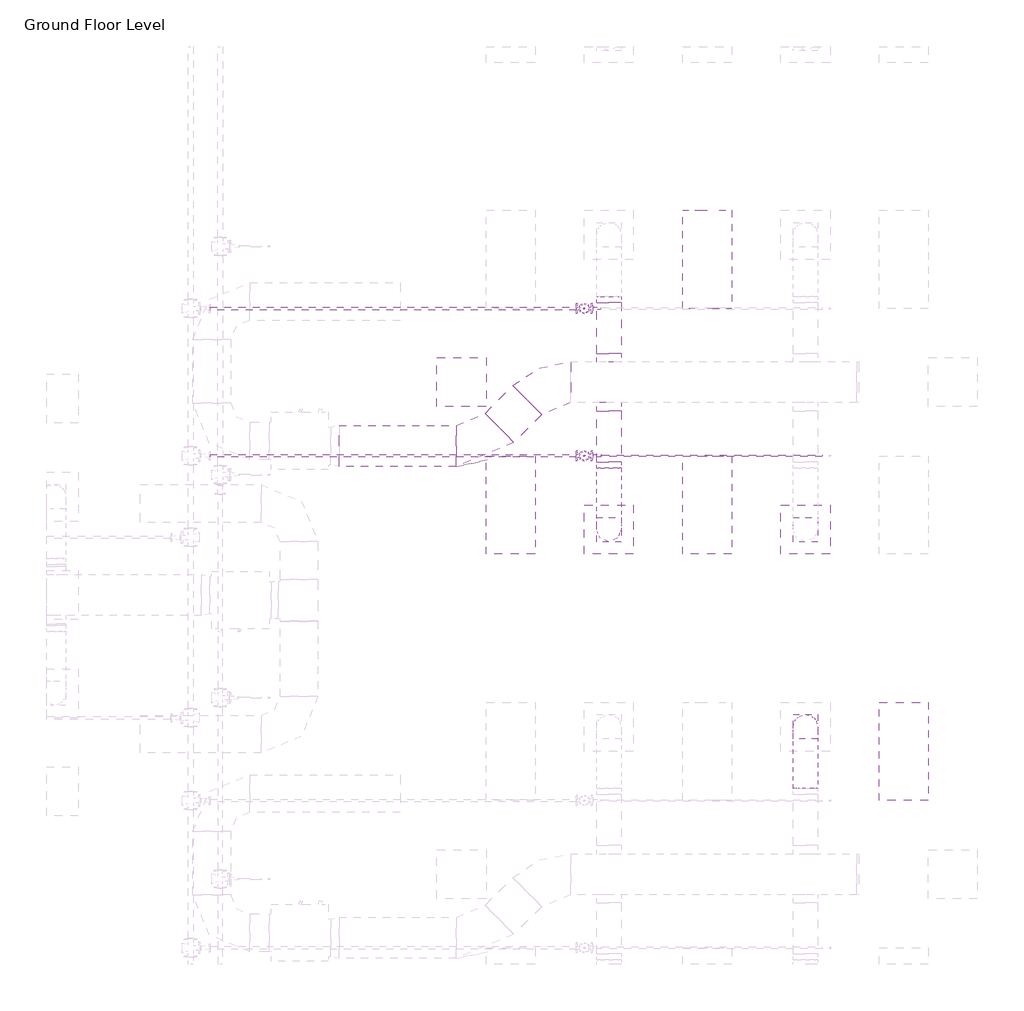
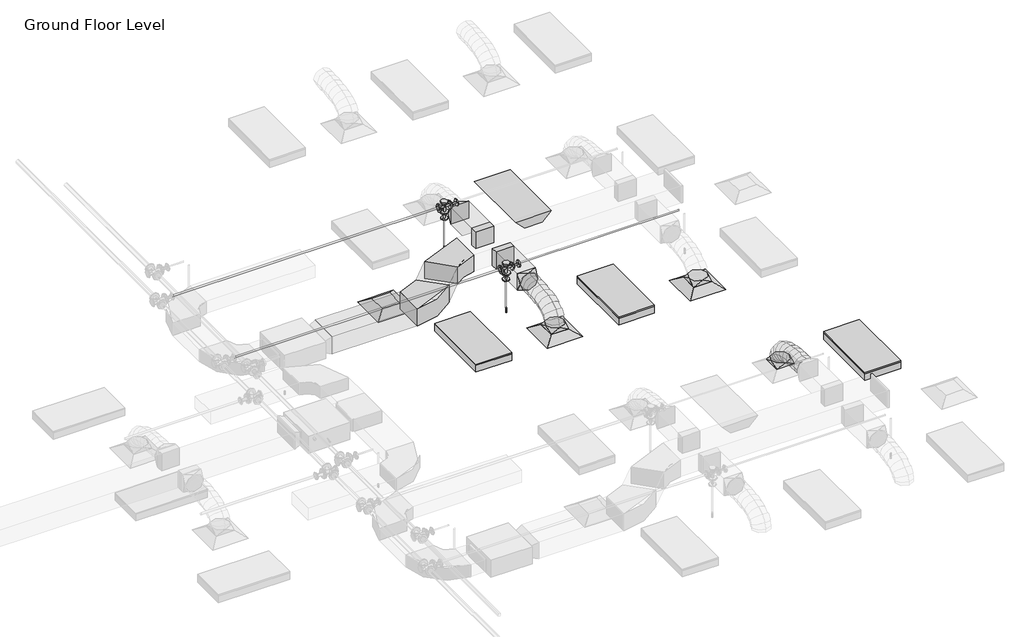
# One storey, part 60 of 68: 9 duct fittings, 6 duct segments, 6 pipe fittings, 5 pipe segments, 4 light fixtures, 3 air terminals, 2 fire suppression terminals.
"""IFC4 building model written with IfcOpenShell, lengths in millimetres."""

from ifc_helpers import new_model, si_unit, point, frame, frame_2d, origin, place, context, project, spatial, polyline, circle_curve, ellipse_curve, trimmed, segment, composite_curve, outline, extrude, transform, mapped, element, save
from ifc_brep_helpers import plane_surface, cylinder_surface, advanced_brep
from components import m_return_diffuser_600_x_600_face_300_x_300_connection_ff221211, m_rectangular_elbow_radius_1_5_w_acc56c25, m_rectangular_takeoff_standard_cb0ccb98, m_rectangular_takeoff_standard_2be5eba1, m_rectangular_to_round_transition_angle_45_degree_641efff0, m_sprinkler_dry_pendent_hosted_15_mm_dry_pendent_9bda8e11, m_emergency_recessed_lighting_fixture_600x1200_277_5b10b25d, m_troffer_light_parabolic_rectangular1_0600x1200mm_4_lamp_86473d4a, m_reducer_flanged_cs_class_150_standard_ccf252ad, m_tee_round_base_flanged_cs_class_150_standard_7e5987a1

model = new_model("IFC4")

# Units and contexts
model_context = context("Model", 3, world=origin())
ifc_project = project(units=[si_unit("LENGTHUNIT", "METRE", prefix="MILLI")], contexts=[model_context])

# Site, building, storey
site = spatial("IfcSite", under=ifc_project)
building = spatial("IfcBuilding", under=site)
storey = spatial("IfcBuildingStorey", under=building, Name="Ground Floor Level", Elevation=900.0)

# Air terminals
placement = place(None, origin())
m_return_diffuser_600_x_600_face_300_x_300_connection_shape = m_return_diffuser_600_x_600_face_300_x_300_connection_ff221211(model_context)
element("IfcAirTerminal", 1, ObjectType="M_Return Diffuser : 600 x 600 Face 300 x 300 Connection", at=placement, inside=storey, context=model_context, shape_type="MappedRepresentation", body=[
    mapped(m_return_diffuser_600_x_600_face_300_x_300_connection_shape, transform((8942.7672395, 6735.2153534, 3650.0), x_axis=(1.0, 0.0, 0.0), y_axis=(0.0, 1.0, 0.0), z_axis=(0.0, 0.0, 1.0))),
])
element("IfcAirTerminal", 2, ObjectType="M_Supply Diffuser : 600 x 600 Face 300 x 300 Connection", at=placement, inside=storey, context=model_context, shape_type="MappedRepresentation", body=[
    mapped(m_return_diffuser_600_x_600_face_300_x_300_connection_shape, transform((10742.7672395, 4935.2153534, 3650.0), x_axis=(1.0, 0.0, 0.0), y_axis=(0.0, 1.0, 0.0), z_axis=(0.0, 0.0, 1.0))),
])
element("IfcAirTerminal", 3, ObjectType="M_Supply Diffuser : 600 x 600 Face 300 x 300 Connection", at=placement, inside=storey, context=model_context, shape_type="MappedRepresentation", body=[
    mapped(m_return_diffuser_600_x_600_face_300_x_300_connection_shape, transform((13142.7672395, 4935.2153534, 3650.0), x_axis=(1.0, 0.0, 0.0), y_axis=(0.0, 1.0, 0.0), z_axis=(0.0, 0.0, 1.0))),
])

# Duct fittings
m_rectangular_elbow_radius_1_5_w_shape = m_rectangular_elbow_radius_1_5_w_acc56c25(model_context)
element("IfcDuctFitting", 4, ObjectType="M_Rectangular Elbow - Radius : 1.5 W", at=placement, inside=storey, context=model_context, shape_type="MappedRepresentation", body=[
    mapped(m_rectangular_elbow_radius_1_5_w_shape, transform((9187.6927358, 5956.1779527, 4100.0047224), x_axis=(0.9999999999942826, 0.0, -3.3815582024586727e-06), y_axis=(-9.063610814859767e-12, 0.9999999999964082, -2.680306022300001e-06), z_axis=(3.3815582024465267e-06, 2.6803060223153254e-06, 0.9999999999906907))),
])
element("IfcDuctFitting", 5, ObjectType="M_Rectangular Elbow - Radius : 1.5 W", at=placement, inside=storey, context=model_context, shape_type="MappedRepresentation", body=[
    mapped(m_rectangular_elbow_radius_1_5_w_shape, transform((9966.7301365, 6735.2153534, 4100.0), x_axis=(-1.0, 0.0, 0.0), y_axis=(0.0, -0.9999999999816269, 6.061864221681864e-06), z_axis=(0.0, 6.061864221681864e-06, 0.9999999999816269))),
])
m_rectangular_takeoff_standard_shape = m_rectangular_takeoff_standard_cb0ccb98(model_context)
element("IfcDuctFitting", 6, ObjectType="M_Rectangular Takeoff : Standard", at=placement, inside=storey, context=model_context, shape_type="MappedRepresentation", body=[
    mapped(m_rectangular_takeoff_standard_shape, transform((10742.7672395, 6985.2153534, 4100.0), x_axis=(0.0, 1.0, 0.0), y_axis=(1.0, 0.0, 0.0), z_axis=(0.0, 0.0, -1.0))),
])
m_rectangular_takeoff_standard_2_shape = m_rectangular_takeoff_standard_2be5eba1(model_context)
element("IfcDuctFitting", 7, ObjectType="M_Rectangular Takeoff : Standard", at=placement, inside=storey, context=model_context, shape_type="MappedRepresentation", body=[
    mapped(m_rectangular_takeoff_standard_2_shape, transform((10742.7672395, 6485.2153534, 4100.0), x_axis=(0.0, -1.0, 0.0), y_axis=(-1.0, 0.0, 0.0), z_axis=(0.0, 0.0, -1.0))),
])
m_rectangular_to_round_transition_angle_45_degree_shape = m_rectangular_to_round_transition_angle_45_degree_641efff0(model_context)
element("IfcDuctFitting", 8, ObjectType="M_Rectangular to Round Transition - Angle : 45 Degree", at=placement, inside=storey, context=model_context, shape_type="MappedRepresentation", body=[
    mapped(m_rectangular_to_round_transition_angle_45_degree_shape, transform((13142.7672395, 2525.2153534, 3751.6), x_axis=(0.0, 0.0, 1.0), y_axis=(-1.0, 0.0, 0.0), z_axis=(0.0, -1.0, 0.0))),
])
element("IfcDuctFitting", 9, ObjectType="M_Rectangular to Round Transition - Angle : 45 Degree", at=placement, inside=storey, context=model_context, shape_type="MappedRepresentation", body=[
    mapped(m_rectangular_to_round_transition_angle_45_degree_shape, transform((10742.7672395, 4935.2153534, 3751.6), x_axis=(0.0, 0.0, 1.0), y_axis=(-1.0, 0.0, 0.0), z_axis=(0.0, -1.0, 0.0))),
])
element("IfcDuctFitting", 10, ObjectType="M_Rectangular to Round Transition - Angle : 45 Degree", at=placement, inside=storey, context=model_context, shape_type="MappedRepresentation", body=[
    mapped(m_rectangular_to_round_transition_angle_45_degree_shape, transform((10742.7672395, 5762.5512847, 4100.0), x_axis=(0.0, -1.0, 0.0), y_axis=(1.0, 0.0, 0.0), z_axis=(0.0, 0.0, 1.0))),
])
element("IfcDuctFitting", 11, ObjectType="M_Rectangular to Round Transition - Angle : 45 Degree", at=placement, inside=storey, context=model_context, shape_type="MappedRepresentation", body=[
    mapped(m_rectangular_to_round_transition_angle_45_degree_shape, transform((13142.7672395, 4935.2153534, 3751.6), x_axis=(0.0, 0.0, 1.0), y_axis=(-1.0, 0.0, 0.0), z_axis=(0.0, -1.0, 0.0))),
])
element("IfcDuctFitting", 12, ObjectType="M_Rectangular to Round Transition - Angle : 45 Degree", at=placement, inside=storey, context=model_context, shape_type="MappedRepresentation", body=[
    mapped(m_rectangular_to_round_transition_angle_45_degree_shape, transform((10742.7672395, 7707.8794221, 4100.0), x_axis=(0.0, 1.0, 0.0), y_axis=(-1.0, 0.0, 0.0), z_axis=(0.0, 0.0, 1.0))),
])

# Duct segments
element("IfcDuctSegment", 13, ObjectType="Flex - Round", at=placement, inside=storey, context=model_context, shape_type="AdvancedBrep", body=[
    advanced_brep(
    [(13292.7672395, 2525.2153534, 3826.6), (13142.7672395, 2375.2153534, 3826.6), (12992.7672395, 2525.2153534, 3826.6), (13142.7672395, 2675.2153534, 3826.6), (13292.7672395, 2525.2153534, 3857.9377114), (13142.7672395, 2375.2153534, 3832.2944892), (12992.7672395, 2525.2153534, 3857.9377114), (13142.7672395, 2675.2153534, 3883.5809337), (13292.7672395, 2508.1994208, 3906.2505728), (13142.7672395, 2374.4614419, 3834.435049), (12992.7672395, 2508.1994208, 3906.2505728), (13142.7672395, 2641.9373998, 3978.0660967), (13292.7672395, 2461.0155405, 3968.7113131), (13142.7672395, 2356.8096412, 3857.8020236), (12992.7672395, 2461.0155405, 3968.7113131), (13142.7672395, 2565.2214397, 4079.6206026), (13292.7672395, 2389.4595883, 4016.0700639), (13142.7672395, 2320.5255327, 3881.8163788), (12992.7672395, 2389.4595883, 4016.0700639), (13142.7672395, 2458.3936439, 4150.3237489), (13292.7672395, 2299.3274403, 4050.4146682), (13142.7672395, 2255.7666771, 3906.4925606), (12992.7672395, 2299.3274403, 4050.4146682), (13142.7672395, 2342.8882035, 4194.3367758), (13292.7672395, 2196.4149725, 4073.8329691), (13142.7672395, 2169.8540485, 3926.0424542), (12992.7672395, 2196.4149725, 4073.8329691), (13142.7672395, 2222.9758965, 4221.6234841), (13292.7672395, 2086.5180607, 4088.4128097), (13142.7672395, 2071.3671584, 3939.1085462), (12992.7672395, 2086.5180607, 4088.4128097), (13142.7672395, 2101.6689631, 4237.7170733), (13292.7672395, 1975.4325811, 4096.242033), (13142.7672395, 1967.9272529, 3946.398915), (12992.7672395, 1975.4325811, 4096.242033), (13142.7672395, 1982.9379093, 4246.085151), (13292.7672395, 1868.9544096, 4099.4084821), (13142.7672395, 1866.2629165, 3949.4222102), (12992.7672395, 1868.9544096, 4099.4084821), (13142.7672395, 1871.6459027, 4249.394754), (13292.7672395, 1772.8794221, 4100.0), (13142.7672395, 1773.8029299, 4249.9971571), (12992.7672395, 1772.8794221, 4100.0), (13142.7672395, 1771.9559143, 3950.0028429)],
    [
        (0, 1, circle_curve(frame((13142.7672395, 2525.2153534, 3826.6), z_axis=(0.0, 0.0, -1.0), x_axis=(1.0, 0.0, 0.0)), 150.0)),
        (1, 2, circle_curve(frame((13142.7672395, 2525.2153534, 3826.6), z_axis=(0.0, 0.0, -1.0), x_axis=(1.0, 0.0, 0.0)), 150.0)),
        (2, 3, circle_curve(frame((13142.7672395, 2525.2153534, 3826.6), z_axis=(0.0, 0.0, -1.0), x_axis=(1.0, 0.0, 0.0)), 150.0)),
        (3, 0, circle_curve(frame((13142.7672395, 2525.2153534, 3826.6), z_axis=(0.0, 0.0, -1.0), x_axis=(1.0, 0.0, 0.0)), 150.0)),
        (0, 4),
        (4, 5, ellipse_curve(frame((13142.7672395, 2525.2153534, 3857.9377114), z_axis=(0.0, 0.16851014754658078, -0.9856999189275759), x_axis=(0.0, -0.9856999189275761, -0.1685101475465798)), 152.176131, 150.0)),
        (5, 1),
        (5, 6, ellipse_curve(frame((13142.7672395, 2525.2153534, 3857.9377114), z_axis=(0.0, 0.16851014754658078, -0.9856999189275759), x_axis=(0.0, -0.9856999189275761, -0.1685101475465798)), 152.176131, 150.0)),
        (6, 2),
        (6, 7, ellipse_curve(frame((13142.7672395, 2525.2153534, 3857.9377114), z_axis=(0.0, 0.16851014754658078, -0.9856999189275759), x_axis=(0.0, -0.9856999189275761, -0.1685101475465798)), 152.176131, 150.0)),
        (7, 3),
        (7, 4, ellipse_curve(frame((13142.7672395, 2525.2153534, 3857.9377114), z_axis=(0.0, 0.16851014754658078, -0.9856999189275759), x_axis=(0.0, -0.9856999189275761, -0.1685101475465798)), 152.176131, 150.0)),
        (4, 8),
        (8, 9, ellipse_curve(frame((13142.7672395, 2508.1994208, 3906.2505728), z_axis=(0.0, 0.47309225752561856, -0.8810128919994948), x_axis=(0.0, -0.8810128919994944, -0.47309225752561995)), 151.8002519, 150.0)),
        (9, 5),
        (9, 10, ellipse_curve(frame((13142.7672395, 2508.1994208, 3906.2505728), z_axis=(0.0, 0.47309225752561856, -0.8810128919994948), x_axis=(0.0, -0.8810128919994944, -0.47309225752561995)), 151.8002519, 150.0)),
        (10, 6),
        (10, 11, ellipse_curve(frame((13142.7672395, 2508.1994208, 3906.2505728), z_axis=(0.0, 0.47309225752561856, -0.8810128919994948), x_axis=(0.0, -0.8810128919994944, -0.47309225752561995)), 151.8002519, 150.0)),
        (11, 7),
        (11, 8, ellipse_curve(frame((13142.7672395, 2508.1994208, 3906.2505728), z_axis=(0.0, 0.47309225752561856, -0.8810128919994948), x_axis=(0.0, -0.8810128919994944, -0.47309225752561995)), 151.8002519, 150.0)),
        (8, 12),
        (12, 13, ellipse_curve(frame((13142.7672395, 2461.0155405, 3968.7113131), z_axis=(0.0, 0.7287877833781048, -0.6847396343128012), x_axis=(0.0, -0.6847396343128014, -0.7287877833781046)), 152.1832446, 150.0)),
        (13, 9),
        (13, 14, ellipse_curve(frame((13142.7672395, 2461.0155405, 3968.7113131), z_axis=(0.0, 0.7287877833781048, -0.6847396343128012), x_axis=(0.0, -0.6847396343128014, -0.7287877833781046)), 152.1832446, 150.0)),
        (14, 10),
        (14, 15, ellipse_curve(frame((13142.7672395, 2461.0155405, 3968.7113131), z_axis=(0.0, 0.7287877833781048, -0.6847396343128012), x_axis=(0.0, -0.6847396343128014, -0.7287877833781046)), 152.1832446, 150.0)),
        (15, 11),
        (15, 12, ellipse_curve(frame((13142.7672395, 2461.0155405, 3968.7113131), z_axis=(0.0, 0.7287877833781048, -0.6847396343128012), x_axis=(0.0, -0.6847396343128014, -0.7287877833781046)), 152.1832446, 150.0)),
        (12, 16),
        (16, 17, ellipse_curve(frame((13142.7672395, 2389.4595883, 4016.0700639), z_axis=(0.0, 0.8895859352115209, -0.45676784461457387), x_axis=(0.0, -0.45676784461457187, -0.8895859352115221)), 150.91705, 150.0)),
        (17, 13),
        (17, 18, ellipse_curve(frame((13142.7672395, 2389.4595883, 4016.0700639), z_axis=(0.0, 0.8895859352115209, -0.45676784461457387), x_axis=(0.0, -0.45676784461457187, -0.8895859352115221)), 150.91705, 150.0)),
        (18, 14),
        (18, 19, ellipse_curve(frame((13142.7672395, 2389.4595883, 4016.0700639), z_axis=(0.0, 0.8895859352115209, -0.45676784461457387), x_axis=(0.0, -0.45676784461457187, -0.8895859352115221)), 150.91705, 150.0)),
        (19, 15),
        (19, 16, ellipse_curve(frame((13142.7672395, 2389.4595883, 4016.0700639), z_axis=(0.0, 0.8895859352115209, -0.45676784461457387), x_axis=(0.0, -0.45676784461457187, -0.8895859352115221)), 150.91705, 150.0)),
        (16, 20),
        (20, 21, ellipse_curve(frame((13142.7672395, 2299.3274403, 4050.4146682), z_axis=(0.0, 0.9571203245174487, -0.28969067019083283), x_axis=(0.0, -0.28969067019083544, -0.9571203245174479)), 150.369921, 150.0)),
        (21, 17),
        (21, 22, ellipse_curve(frame((13142.7672395, 2299.3274403, 4050.4146682), z_axis=(0.0, 0.9571203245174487, -0.28969067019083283), x_axis=(0.0, -0.28969067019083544, -0.9571203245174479)), 150.369921, 150.0)),
        (22, 18),
        (22, 23, ellipse_curve(frame((13142.7672395, 2299.3274403, 4050.4146682), z_axis=(0.0, 0.9571203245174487, -0.28969067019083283), x_axis=(0.0, -0.28969067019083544, -0.9571203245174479)), 150.369921, 150.0)),
        (23, 19),
        (23, 20, ellipse_curve(frame((13142.7672395, 2299.3274403, 4050.4146682), z_axis=(0.0, 0.9571203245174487, -0.28969067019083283), x_axis=(0.0, -0.28969067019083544, -0.9571203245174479)), 150.369921, 150.0)),
        (20, 24),
        (24, 25, ellipse_curve(frame((13142.7672395, 2196.4149725, 4073.8329691), z_axis=(0.0, 0.9842313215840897, -0.17688613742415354), x_axis=(0.0, -0.17688613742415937, -0.9842313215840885)), 150.1583131, 150.0)),
        (25, 21),
        (25, 26, ellipse_curve(frame((13142.7672395, 2196.4149725, 4073.8329691), z_axis=(0.0, 0.9842313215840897, -0.17688613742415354), x_axis=(0.0, -0.17688613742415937, -0.9842313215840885)), 150.1583131, 150.0)),
        (26, 22),
        (26, 27, ellipse_curve(frame((13142.7672395, 2196.4149725, 4073.8329691), z_axis=(0.0, 0.9842313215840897, -0.17688613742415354), x_axis=(0.0, -0.17688613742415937, -0.9842313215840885)), 150.1583131, 150.0)),
        (27, 23),
        (27, 24, ellipse_curve(frame((13142.7672395, 2196.4149725, 4073.8329691), z_axis=(0.0, 0.9842313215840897, -0.17688613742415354), x_axis=(0.0, -0.17688613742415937, -0.9842313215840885)), 150.1583131, 150.0)),
        (24, 28),
        (28, 29, ellipse_curve(frame((13142.7672395, 2086.5180607, 4088.4128097), z_axis=(0.0, 0.9948906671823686, -0.10095821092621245), x_axis=(0.0, -0.10095821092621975, -0.9948906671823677)), 150.0710264, 150.0)),
        (29, 25),
        (29, 30, ellipse_curve(frame((13142.7672395, 2086.5180607, 4088.4128097), z_axis=(0.0, 0.9948906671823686, -0.10095821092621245), x_axis=(0.0, -0.10095821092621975, -0.9948906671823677)), 150.0710264, 150.0)),
        (30, 26),
        (30, 31, ellipse_curve(frame((13142.7672395, 2086.5180607, 4088.4128097), z_axis=(0.0, 0.9948906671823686, -0.10095821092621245), x_axis=(0.0, -0.10095821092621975, -0.9948906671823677)), 150.0710264, 150.0)),
        (31, 27),
        (31, 28, ellipse_curve(frame((13142.7672395, 2086.5180607, 4088.4128097), z_axis=(0.0, 0.9948906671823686, -0.10095821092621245), x_axis=(0.0, -0.10095821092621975, -0.9948906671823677)), 150.0710264, 150.0)),
        (28, 32),
        (32, 33, ellipse_curve(frame((13142.7672395, 1975.4325811, 4096.242033), z_axis=(0.0, 0.9987479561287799, -0.05002519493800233), x_axis=(0.0, -0.05002519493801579, -0.9987479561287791)), 150.0309634, 150.0)),
        (33, 29),
        (33, 34, ellipse_curve(frame((13142.7672395, 1975.4325811, 4096.242033), z_axis=(0.0, 0.9987479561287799, -0.05002519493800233), x_axis=(0.0, -0.05002519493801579, -0.9987479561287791)), 150.0309634, 150.0)),
        (34, 30),
        (34, 35, ellipse_curve(frame((13142.7672395, 1975.4325811, 4096.242033), z_axis=(0.0, 0.9987479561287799, -0.05002519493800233), x_axis=(0.0, -0.05002519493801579, -0.9987479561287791)), 150.0309634, 150.0)),
        (35, 31),
        (35, 32, ellipse_curve(frame((13142.7672395, 1975.4325811, 4096.242033), z_axis=(0.0, 0.9987479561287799, -0.05002519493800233), x_axis=(0.0, -0.05002519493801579, -0.9987479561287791)), 150.0309634, 150.0)),
        (32, 36),
        (36, 37, ellipse_curve(frame((13142.7672395, 1868.9544096, 4099.4084821), z_axis=(0.0, 0.9998390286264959, -0.0179420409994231), x_axis=(-1.8187895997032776e-12, -0.017942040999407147, -0.9998390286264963)), 150.0104193, 150.0)),
        (37, 33),
        (37, 38, ellipse_curve(frame((13142.7672395, 1868.9544096, 4099.4084821), z_axis=(0.0, 0.9998390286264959, -0.0179420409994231), x_axis=(-1.8187895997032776e-12, -0.017942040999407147, -0.9998390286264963)), 150.0104193, 150.0)),
        (38, 34),
        (38, 39, ellipse_curve(frame((13142.7672395, 1868.9544096, 4099.4084821), z_axis=(0.0, 0.9998390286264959, -0.0179420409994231), x_axis=(-1.8187895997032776e-12, -0.017942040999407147, -0.9998390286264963)), 150.0104193, 150.0)),
        (39, 35),
        (39, 36, ellipse_curve(frame((13142.7672395, 1868.9544096, 4099.4084821), z_axis=(0.0, 0.9998390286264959, -0.0179420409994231), x_axis=(-1.8187895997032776e-12, -0.017942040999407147, -0.9998390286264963)), 150.0104193, 150.0)),
        (40, 41, circle_curve(frame((13142.7672395, 1772.8794221, 4100.0), z_axis=(0.0, -0.9999810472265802, 0.006156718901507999), x_axis=(1.0, 0.0, 0.0)), 150.0)),
        (41, 42, circle_curve(frame((13142.7672395, 1772.8794221, 4100.0), z_axis=(0.0, -0.9999810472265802, 0.006156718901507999), x_axis=(1.0, 0.0, 0.0)), 150.0)),
        (42, 43, circle_curve(frame((13142.7672395, 1772.8794221, 4100.0), z_axis=(0.0, -0.9999810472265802, 0.006156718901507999), x_axis=(1.0, 0.0, 0.0)), 150.0)),
        (43, 40, circle_curve(frame((13142.7672395, 1772.8794221, 4100.0), z_axis=(0.0, -0.9999810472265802, 0.006156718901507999), x_axis=(1.0, 0.0, 0.0)), 150.0)),
        (36, 40),
        (43, 37),
        (42, 38),
        (41, 39),
    ],
    [
        plane_surface(frame((13142.7672395, 2375.2153534, 3826.6), z_axis=(0.0, 0.0, -1.0), x_axis=(1.0, 0.0, 0.0))),
        cylinder_surface(frame((13142.7672395, 2525.2153534, 3826.6), z_axis=(0.0, 0.0, -1.0), x_axis=(1.0, 0.0, 0.0)), 150.0),
        cylinder_surface(frame((13142.7672395, 2525.2153534, 3857.9377114), z_axis=(0.0, 0.332200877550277, -0.9432086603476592), x_axis=(1.0, 0.0, 0.0)), 150.0),
        cylinder_surface(frame((13142.7672395, 2508.1994208, 3906.2505728), z_axis=(0.0, 0.6027625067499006, -0.797920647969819), x_axis=(1.0, 0.0, 0.0)), 150.0),
        cylinder_surface(frame((13142.7672395, 2461.0155405, 3968.7113131), z_axis=(0.0, 0.8339024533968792, -0.5519118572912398), x_axis=(1.0, 0.0, 0.0)), 150.0),
        cylinder_surface(frame((13142.7672395, 2389.4595883, 4016.0700639), z_axis=(0.0, 0.9344582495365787, -0.3560727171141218), x_axis=(1.0, 0.0, 0.0)), 150.0),
        cylinder_surface(frame((13142.7672395, 2299.3274403, 4050.4146682), z_axis=(0.0, 0.9750732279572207, -0.22188330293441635), x_axis=(1.0, 0.0, 0.0)), 150.0),
        cylinder_surface(frame((13142.7672395, 2196.4149725, 4073.8329691), z_axis=(0.0, 0.9913140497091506, -0.1315159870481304), x_axis=(1.0, 0.0, 0.0)), 150.0),
        cylinder_surface(frame((13142.7672395, 2086.5180607, 4088.4128097), z_axis=(0.0, 0.9975255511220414, -0.07030487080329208), x_axis=(1.0, 0.0, 0.0)), 150.0),
        cylinder_surface(frame((13142.7672395, 1975.4325811, 4096.242033), z_axis=(0.0, 0.9995581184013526, -0.029724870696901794), x_axis=(1.0, 0.0, 0.0)), 150.0),
        plane_surface(frame((13142.7672395, 1771.9559143, 3950.0028429), z_axis=(0.0, -0.9999810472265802, 0.006156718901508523), x_axis=(1.0, 0.0, 0.0))),
        cylinder_surface(frame((13142.7672395, 1868.9544096, 4099.4084821), z_axis=(0.0, 0.9999810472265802, -0.006156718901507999), x_axis=(1.0, 0.0, 0.0)), 150.0),
    ],
    [
        (0, [[1, 2, 3, 4]]),
        (1, [[-1, 5, 6, 7]]),
        (1, [[-2, -7, 8, 9]]),
        (1, [[-3, -9, 10, 11]]),
        (1, [[-4, -11, 12, -5]]),
        (2, [[-6, 13, 14, 15]]),
        (2, [[-8, -15, 16, 17]]),
        (2, [[-10, -17, 18, 19]]),
        (2, [[-12, -19, 20, -13]]),
        (3, [[-14, 21, 22, 23]]),
        (3, [[-16, -23, 24, 25]]),
        (3, [[-18, -25, 26, 27]]),
        (3, [[-20, -27, 28, -21]]),
        (4, [[-22, 29, 30, 31]]),
        (4, [[-24, -31, 32, 33]]),
        (4, [[-26, -33, 34, 35]]),
        (4, [[-28, -35, 36, -29]]),
        (5, [[-30, 37, 38, 39]]),
        (5, [[-32, -39, 40, 41]]),
        (5, [[-34, -41, 42, 43]]),
        (5, [[-36, -43, 44, -37]]),
        (6, [[-38, 45, 46, 47]]),
        (6, [[-40, -47, 48, 49]]),
        (6, [[-42, -49, 50, 51]]),
        (6, [[-44, -51, 52, -45]]),
        (7, [[-46, 53, 54, 55]]),
        (7, [[-48, -55, 56, 57]]),
        (7, [[-50, -57, 58, 59]]),
        (7, [[-52, -59, 60, -53]]),
        (8, [[-54, 61, 62, 63]]),
        (8, [[-56, -63, 64, 65]]),
        (8, [[-58, -65, 66, 67]]),
        (8, [[-60, -67, 68, -61]]),
        (9, [[-62, 69, 70, 71]]),
        (9, [[-64, -71, 72, 73]]),
        (9, [[-66, -73, 74, 75]]),
        (9, [[-68, -75, 76, -69]]),
        (10, [[77, 78, 79, 80]]),
        (11, [[-70, 81, -80, 82]]),
        (11, [[-72, -82, -79, 83]]),
        (11, [[-74, -83, -78, 84]]),
        (11, [[-76, -84, -77, -81]]),
    ],
),
])
element("IfcDuctSegment", 14, ObjectType="Flex - Round", at=placement, inside=storey, context=model_context, shape_type="AdvancedBrep", body=[
    advanced_brep(
    [(10892.7672395, 4935.2153534, 3826.6), (10742.7672395, 4785.2153534, 3826.6), (10592.7672395, 4935.2153534, 3826.6), (10742.7672395, 5085.2153534, 3826.6), (10892.7672395, 4935.2153534, 3857.9377114), (10742.7672395, 4785.2153534, 3883.5809337), (10592.7672395, 4935.2153534, 3857.9377114), (10742.7672395, 5085.2153534, 3832.2944892), (10892.7672395, 4952.2312859, 3906.2505728), (10742.7672395, 4818.493307, 3978.0660967), (10592.7672395, 4952.2312859, 3906.2505728), (10742.7672395, 5085.9692649, 3834.435049), (10892.7672395, 4999.4151663, 3968.7113131), (10742.7672395, 4895.209267, 4079.6206026), (10592.7672395, 4999.4151663, 3968.7113131), (10742.7672395, 5103.6210655, 3857.8020236), (10892.7672395, 5070.9711184, 4016.0700639), (10742.7672395, 5002.0370628, 4150.3237489), (10592.7672395, 5070.9711184, 4016.0700639), (10742.7672395, 5139.9051741, 3881.8163788), (10892.7672395, 5161.1032664, 4050.4146682), (10742.7672395, 5117.5425033, 4194.3367758), (10592.7672395, 5161.1032664, 4050.4146682), (10742.7672395, 5204.6640296, 3906.4925606), (10892.7672395, 5264.0157343, 4073.8329691), (10742.7672395, 5237.4548103, 4221.6234841), (10592.7672395, 5264.0157343, 4073.8329691), (10742.7672395, 5290.5766583, 3926.0424542), (10892.7672395, 5373.912646, 4088.4128097), (10742.7672395, 5358.7617437, 4237.7170733), (10592.7672395, 5373.912646, 4088.4128097), (10742.7672395, 5389.0635483, 3939.1085462), (10892.7672395, 5484.9981256, 4096.242033), (10742.7672395, 5477.4927974, 4246.085151), (10592.7672395, 5484.9981256, 4096.242033), (10742.7672395, 5492.5034538, 3946.398915), (10892.7672395, 5591.4762972, 4099.4084821), (10742.7672395, 5588.7848041, 4249.394754), (10592.7672395, 5591.4762972, 4099.4084821), (10742.7672395, 5594.1677903, 3949.4222102), (10892.7672395, 5687.5512847, 4100.0), (10742.7672395, 5688.4747925, 3950.0028429), (10592.7672395, 5687.5512847, 4100.0), (10742.7672395, 5686.6277768, 4249.9971571)],
    [
        (0, 1, circle_curve(frame((10742.7672395, 4935.2153534, 3826.6), z_axis=(0.0, 0.0, -1.0), x_axis=(1.0, 0.0, 0.0)), 150.0)),
        (1, 2, circle_curve(frame((10742.7672395, 4935.2153534, 3826.6), z_axis=(0.0, 0.0, -1.0), x_axis=(1.0, 0.0, 0.0)), 150.0)),
        (2, 3, circle_curve(frame((10742.7672395, 4935.2153534, 3826.6), z_axis=(0.0, 0.0, -1.0), x_axis=(1.0, 0.0, 0.0)), 150.0)),
        (3, 0, circle_curve(frame((10742.7672395, 4935.2153534, 3826.6), z_axis=(0.0, 0.0, -1.0), x_axis=(1.0, 0.0, 0.0)), 150.0)),
        (0, 4),
        (4, 5, ellipse_curve(frame((10742.7672395, 4935.2153534, 3857.9377114), z_axis=(0.0, -0.16851014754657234, -0.9856999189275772), x_axis=(0.0, 0.9856999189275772, -0.1685101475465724)), 152.176131, 150.0)),
        (5, 1),
        (5, 6, ellipse_curve(frame((10742.7672395, 4935.2153534, 3857.9377114), z_axis=(0.0, -0.16851014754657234, -0.9856999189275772), x_axis=(0.0, 0.9856999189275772, -0.1685101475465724)), 152.176131, 150.0)),
        (6, 2),
        (6, 7, ellipse_curve(frame((10742.7672395, 4935.2153534, 3857.9377114), z_axis=(0.0, -0.16851014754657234, -0.9856999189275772), x_axis=(0.0, 0.9856999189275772, -0.1685101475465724)), 152.176131, 150.0)),
        (7, 3),
        (7, 4, ellipse_curve(frame((10742.7672395, 4935.2153534, 3857.9377114), z_axis=(0.0, -0.16851014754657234, -0.9856999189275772), x_axis=(0.0, 0.9856999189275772, -0.1685101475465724)), 152.176131, 150.0)),
        (4, 8),
        (8, 9, ellipse_curve(frame((10742.7672395, 4952.2312859, 3906.2505728), z_axis=(0.0, -0.4730922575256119, -0.8810128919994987), x_axis=(0.0, 0.8810128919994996, -0.47309225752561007)), 151.8002519, 150.0)),
        (9, 5),
        (9, 10, ellipse_curve(frame((10742.7672395, 4952.2312859, 3906.2505728), z_axis=(0.0, -0.4730922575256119, -0.8810128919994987), x_axis=(0.0, 0.8810128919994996, -0.47309225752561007)), 151.8002519, 150.0)),
        (10, 6),
        (10, 11, ellipse_curve(frame((10742.7672395, 4952.2312859, 3906.2505728), z_axis=(0.0, -0.4730922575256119, -0.8810128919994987), x_axis=(0.0, 0.8810128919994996, -0.47309225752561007)), 151.8002519, 150.0)),
        (11, 7),
        (11, 8, ellipse_curve(frame((10742.7672395, 4952.2312859, 3906.2505728), z_axis=(0.0, -0.4730922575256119, -0.8810128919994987), x_axis=(0.0, 0.8810128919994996, -0.47309225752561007)), 151.8002519, 150.0)),
        (8, 12),
        (12, 13, ellipse_curve(frame((10742.7672395, 4999.4151663, 3968.7113131), z_axis=(0.0, -0.7287877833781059, -0.6847396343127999), x_axis=(0.0, 0.6847396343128, -0.7287877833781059)), 152.1832446, 150.0)),
        (13, 9),
        (13, 14, ellipse_curve(frame((10742.7672395, 4999.4151663, 3968.7113131), z_axis=(0.0, -0.7287877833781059, -0.6847396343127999), x_axis=(0.0, 0.6847396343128, -0.7287877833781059)), 152.1832446, 150.0)),
        (14, 10),
        (14, 15, ellipse_curve(frame((10742.7672395, 4999.4151663, 3968.7113131), z_axis=(0.0, -0.7287877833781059, -0.6847396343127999), x_axis=(0.0, 0.6847396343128, -0.7287877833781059)), 152.1832446, 150.0)),
        (15, 11),
        (15, 12, ellipse_curve(frame((10742.7672395, 4999.4151663, 3968.7113131), z_axis=(0.0, -0.7287877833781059, -0.6847396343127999), x_axis=(0.0, 0.6847396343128, -0.7287877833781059)), 152.1832446, 150.0)),
        (12, 16),
        (16, 17, ellipse_curve(frame((10742.7672395, 5070.9711184, 4016.0700639), z_axis=(0.0, -0.8895859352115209, -0.4567678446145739), x_axis=(0.0, 0.4567678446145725, -0.8895859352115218)), 150.91705, 150.0)),
        (17, 13),
        (17, 18, ellipse_curve(frame((10742.7672395, 5070.9711184, 4016.0700639), z_axis=(0.0, -0.8895859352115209, -0.4567678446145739), x_axis=(0.0, 0.4567678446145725, -0.8895859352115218)), 150.91705, 150.0)),
        (18, 14),
        (18, 19, ellipse_curve(frame((10742.7672395, 5070.9711184, 4016.0700639), z_axis=(0.0, -0.8895859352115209, -0.4567678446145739), x_axis=(0.0, 0.4567678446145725, -0.8895859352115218)), 150.91705, 150.0)),
        (19, 15),
        (19, 16, ellipse_curve(frame((10742.7672395, 5070.9711184, 4016.0700639), z_axis=(0.0, -0.8895859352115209, -0.4567678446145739), x_axis=(0.0, 0.4567678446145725, -0.8895859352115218)), 150.91705, 150.0)),
        (16, 20),
        (20, 21, ellipse_curve(frame((10742.7672395, 5161.1032664, 4050.4146682), z_axis=(0.0, -0.9571203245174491, -0.28969067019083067), x_axis=(0.0, 0.28969067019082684, -0.9571203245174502)), 150.369921, 150.0)),
        (21, 17),
        (21, 22, ellipse_curve(frame((10742.7672395, 5161.1032664, 4050.4146682), z_axis=(0.0, -0.9571203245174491, -0.28969067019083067), x_axis=(0.0, 0.28969067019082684, -0.9571203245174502)), 150.369921, 150.0)),
        (22, 18),
        (22, 23, ellipse_curve(frame((10742.7672395, 5161.1032664, 4050.4146682), z_axis=(0.0, -0.9571203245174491, -0.28969067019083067), x_axis=(0.0, 0.28969067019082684, -0.9571203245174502)), 150.369921, 150.0)),
        (23, 19),
        (23, 20, ellipse_curve(frame((10742.7672395, 5161.1032664, 4050.4146682), z_axis=(0.0, -0.9571203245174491, -0.28969067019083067), x_axis=(0.0, 0.28969067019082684, -0.9571203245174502)), 150.369921, 150.0)),
        (20, 24),
        (24, 25, ellipse_curve(frame((10742.7672395, 5264.0157343, 4073.8329691), z_axis=(0.0, -0.9842313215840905, -0.17688613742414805), x_axis=(0.0, 0.17688613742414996, -0.9842313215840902)), 150.1583131, 150.0)),
        (25, 21),
        (25, 26, ellipse_curve(frame((10742.7672395, 5264.0157343, 4073.8329691), z_axis=(0.0, -0.9842313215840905, -0.17688613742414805), x_axis=(0.0, 0.17688613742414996, -0.9842313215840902)), 150.1583131, 150.0)),
        (26, 22),
        (26, 27, ellipse_curve(frame((10742.7672395, 5264.0157343, 4073.8329691), z_axis=(0.0, -0.9842313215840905, -0.17688613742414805), x_axis=(0.0, 0.17688613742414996, -0.9842313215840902)), 150.1583131, 150.0)),
        (27, 23),
        (27, 24, ellipse_curve(frame((10742.7672395, 5264.0157343, 4073.8329691), z_axis=(0.0, -0.9842313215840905, -0.17688613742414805), x_axis=(0.0, 0.17688613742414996, -0.9842313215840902)), 150.1583131, 150.0)),
        (24, 28),
        (28, 29, ellipse_curve(frame((10742.7672395, 5373.912646, 4088.4128097), z_axis=(0.0, -0.9948906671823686, -0.10095821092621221), x_axis=(0.0, 0.10095821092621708, -0.9948906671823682)), 150.0710264, 150.0)),
        (29, 25),
        (29, 30, ellipse_curve(frame((10742.7672395, 5373.912646, 4088.4128097), z_axis=(0.0, -0.9948906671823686, -0.10095821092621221), x_axis=(0.0, 0.10095821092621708, -0.9948906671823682)), 150.0710264, 150.0)),
        (30, 26),
        (30, 31, ellipse_curve(frame((10742.7672395, 5373.912646, 4088.4128097), z_axis=(0.0, -0.9948906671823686, -0.10095821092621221), x_axis=(0.0, 0.10095821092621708, -0.9948906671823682)), 150.0710264, 150.0)),
        (31, 27),
        (31, 28, ellipse_curve(frame((10742.7672395, 5373.912646, 4088.4128097), z_axis=(0.0, -0.9948906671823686, -0.10095821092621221), x_axis=(0.0, 0.10095821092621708, -0.9948906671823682)), 150.0710264, 150.0)),
        (28, 32),
        (32, 33, ellipse_curve(frame((10742.7672395, 5484.9981256, 4096.242033), z_axis=(0.0, -0.9987479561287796, -0.05002519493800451), x_axis=(0.0, 0.050025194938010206, -0.9987479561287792)), 150.0309634, 150.0)),
        (33, 29),
        (33, 34, ellipse_curve(frame((10742.7672395, 5484.9981256, 4096.242033), z_axis=(0.0, -0.9987479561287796, -0.05002519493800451), x_axis=(0.0, 0.050025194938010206, -0.9987479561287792)), 150.0309634, 150.0)),
        (34, 30),
        (34, 35, ellipse_curve(frame((10742.7672395, 5484.9981256, 4096.242033), z_axis=(0.0, -0.9987479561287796, -0.05002519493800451), x_axis=(0.0, 0.050025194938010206, -0.9987479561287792)), 150.0309634, 150.0)),
        (35, 31),
        (35, 32, ellipse_curve(frame((10742.7672395, 5484.9981256, 4096.242033), z_axis=(0.0, -0.9987479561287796, -0.05002519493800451), x_axis=(0.0, 0.050025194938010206, -0.9987479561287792)), 150.0309634, 150.0)),
        (32, 36),
        (36, 37, ellipse_curve(frame((10742.7672395, 5591.4762972, 4099.4084821), z_axis=(0.0, -0.9998390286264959, -0.017942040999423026), x_axis=(0.0, 0.01794204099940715, -0.9998390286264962)), 150.0104193, 150.0)),
        (37, 33),
        (37, 38, ellipse_curve(frame((10742.7672395, 5591.4762972, 4099.4084821), z_axis=(0.0, -0.9998390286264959, -0.017942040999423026), x_axis=(0.0, 0.01794204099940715, -0.9998390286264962)), 150.0104193, 150.0)),
        (38, 34),
        (38, 39, ellipse_curve(frame((10742.7672395, 5591.4762972, 4099.4084821), z_axis=(0.0, -0.9998390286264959, -0.017942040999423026), x_axis=(0.0, 0.01794204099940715, -0.9998390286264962)), 150.0104193, 150.0)),
        (39, 35),
        (39, 36, ellipse_curve(frame((10742.7672395, 5591.4762972, 4099.4084821), z_axis=(0.0, -0.9998390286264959, -0.017942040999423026), x_axis=(0.0, 0.01794204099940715, -0.9998390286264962)), 150.0104193, 150.0)),
        (40, 41, circle_curve(frame((10742.7672395, 5687.5512847, 4100.0), z_axis=(0.0, 0.9999810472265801, 0.006156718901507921), x_axis=(1.0, 0.0, 0.0)), 150.0)),
        (41, 42, circle_curve(frame((10742.7672395, 5687.5512847, 4100.0), z_axis=(0.0, 0.9999810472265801, 0.006156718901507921), x_axis=(1.0, 0.0, 0.0)), 150.0)),
        (42, 43, circle_curve(frame((10742.7672395, 5687.5512847, 4100.0), z_axis=(0.0, 0.9999810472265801, 0.006156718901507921), x_axis=(1.0, 0.0, 0.0)), 150.0)),
        (43, 40, circle_curve(frame((10742.7672395, 5687.5512847, 4100.0), z_axis=(0.0, 0.9999810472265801, 0.006156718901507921), x_axis=(1.0, 0.0, 0.0)), 150.0)),
        (36, 40),
        (43, 37),
        (42, 38),
        (41, 39),
    ],
    [
        plane_surface(frame((10742.7672395, 4785.2153534, 3826.6), z_axis=(0.0, 0.0, -1.0), x_axis=(1.0, 0.0, 0.0))),
        cylinder_surface(frame((10742.7672395, 4935.2153534, 3826.6), z_axis=(0.0, 0.0, -1.0), x_axis=(1.0, 0.0, 0.0)), 150.0),
        cylinder_surface(frame((10742.7672395, 4935.2153534, 3857.9377114), z_axis=(0.0, -0.3322008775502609, -0.9432086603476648), x_axis=(1.0, 0.0, 0.0)), 150.0),
        cylinder_surface(frame((10742.7672395, 4952.2312859, 3906.2505728), z_axis=(0.0, -0.6027625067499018, -0.7979206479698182), x_axis=(1.0, 0.0, 0.0)), 150.0),
        cylinder_surface(frame((10742.7672395, 4999.4151663, 3968.7113131), z_axis=(0.0, -0.8339024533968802, -0.5519118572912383), x_axis=(1.0, 0.0, 0.0)), 150.0),
        cylinder_surface(frame((10742.7672395, 5070.9711184, 4016.0700639), z_axis=(0.0, -0.934458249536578, -0.35607271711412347), x_axis=(1.0, 0.0, 0.0)), 150.0),
        cylinder_surface(frame((10742.7672395, 5161.1032664, 4050.4146682), z_axis=(0.0, -0.9750732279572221, -0.22188330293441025), x_axis=(1.0, 0.0, 0.0)), 150.0),
        cylinder_surface(frame((10742.7672395, 5264.0157343, 4073.8329691), z_axis=(0.0, -0.9913140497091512, -0.1315159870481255), x_axis=(1.0, 0.0, 0.0)), 150.0),
        cylinder_surface(frame((10742.7672395, 5373.912646, 4088.4128097), z_axis=(0.0, -0.9975255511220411, -0.07030487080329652), x_axis=(1.0, 0.0, 0.0)), 150.0),
        cylinder_surface(frame((10742.7672395, 5484.9981256, 4096.242033), z_axis=(0.0, -0.9995581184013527, -0.02972487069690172), x_axis=(1.0, 0.0, 0.0)), 150.0),
        plane_surface(frame((10742.7672395, 5686.6277768, 4249.9971571), z_axis=(0.0, 0.9999810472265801, 0.0061567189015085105), x_axis=(1.0, 0.0, 0.0))),
        cylinder_surface(frame((10742.7672395, 5591.4762972, 4099.4084821), z_axis=(0.0, -0.9999810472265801, -0.006156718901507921), x_axis=(1.0, 0.0, 0.0)), 150.0),
    ],
    [
        (0, [[1, 2, 3, 4]]),
        (1, [[-1, 5, 6, 7]]),
        (1, [[-2, -7, 8, 9]]),
        (1, [[-3, -9, 10, 11]]),
        (1, [[-4, -11, 12, -5]]),
        (2, [[-6, 13, 14, 15]]),
        (2, [[-8, -15, 16, 17]]),
        (2, [[-10, -17, 18, 19]]),
        (2, [[-12, -19, 20, -13]]),
        (3, [[-14, 21, 22, 23]]),
        (3, [[-16, -23, 24, 25]]),
        (3, [[-18, -25, 26, 27]]),
        (3, [[-20, -27, 28, -21]]),
        (4, [[-22, 29, 30, 31]]),
        (4, [[-24, -31, 32, 33]]),
        (4, [[-26, -33, 34, 35]]),
        (4, [[-28, -35, 36, -29]]),
        (5, [[-30, 37, 38, 39]]),
        (5, [[-32, -39, 40, 41]]),
        (5, [[-34, -41, 42, 43]]),
        (5, [[-36, -43, 44, -37]]),
        (6, [[-38, 45, 46, 47]]),
        (6, [[-40, -47, 48, 49]]),
        (6, [[-42, -49, 50, 51]]),
        (6, [[-44, -51, 52, -45]]),
        (7, [[-46, 53, 54, 55]]),
        (7, [[-48, -55, 56, 57]]),
        (7, [[-50, -57, 58, 59]]),
        (7, [[-52, -59, 60, -53]]),
        (8, [[-54, 61, 62, 63]]),
        (8, [[-56, -63, 64, 65]]),
        (8, [[-58, -65, 66, 67]]),
        (8, [[-60, -67, 68, -61]]),
        (9, [[-62, 69, 70, 71]]),
        (9, [[-64, -71, 72, 73]]),
        (9, [[-66, -73, 74, 75]]),
        (9, [[-68, -75, 76, -69]]),
        (10, [[77, 78, 79, 80]]),
        (11, [[-70, 81, -80, 82]]),
        (11, [[-72, -82, -79, 83]]),
        (11, [[-74, -83, -78, 84]]),
        (11, [[-76, -84, -77, -81]]),
    ],
),
])
element("IfcDuctSegment", 15, ObjectType="Radius Elbows / Taps", at=placement, inside=storey, context=model_context, shape_type="SweptSolid", body=[
    extrude(outline(polyline([(7447.693178, 5706.1779527), (7447.693178, 6206.1779527), (8877.032564, 6206.1779527), (8877.032564, 5706.1779527), (7447.693178, 5706.1779527)])), frame((0.0, 0.0, 3950.0057729), z_axis=(0.0, 0.0, 1.0), x_axis=(1.0, 0.0, 0.0)), (0.0, 0.0, 1.0), 300.0),
])
element("IfcDuctSegment", 16, ObjectType="Radius Elbows / Taps", at=placement, inside=storey, context=model_context, shape_type="SweptSolid", body=[
    extrude(outline(polyline([(9584.1393452, 5999.0711715), (9230.5859546, 6352.6245621), (9570.2835271, 6692.3221346), (9923.8369177, 6338.768744), (9584.1393452, 5999.0711715)])), frame((0.0, 0.0, 3950.0033908), z_axis=(0.0, 0.0, 1.0), x_axis=(1.0, 0.0, 0.0)), (0.0, 0.0, 1.0), 300.0),
])
element("IfcDuctSegment", 17, ObjectType="Radius Elbows / Taps", at=placement, inside=storey, context=model_context, shape_type="SweptSolid", body=[
    extrude(outline(polyline([(10892.7672395, 7086.8153534), (10592.7672395, 7086.8153534), (10592.7672395, 7707.8794221), (10892.7672395, 7707.8794221), (10892.7672395, 7086.8153534)])), frame((0.0, 0.0, 3950.0), z_axis=(0.0, 0.0, 1.0), x_axis=(1.0, 0.0, 0.0)), (0.0, 0.0, 1.0), 300.0),
])
element("IfcDuctSegment", 18, ObjectType="Radius Elbows / Taps", at=placement, inside=storey, context=model_context, shape_type="SweptSolid", body=[
    extrude(outline(polyline([(10592.7672395, 6383.6153534), (10892.7672395, 6383.6153534), (10892.7672395, 5762.5512847), (10592.7672395, 5762.5512847), (10592.7672395, 6383.6153534)])), frame((0.0, 0.0, 3950.0), z_axis=(0.0, 0.0, 1.0), x_axis=(1.0, 0.0, 0.0)), (0.0, 0.0, 1.0), 300.0),
])

# Fire suppression terminals
m_sprinkler_dry_pendent_hosted_15_mm_dry_pendent_shape = m_sprinkler_dry_pendent_hosted_15_mm_dry_pendent_9bda8e11(model_context)
element("IfcFireSuppressionTerminal", 19, ObjectType="M_Sprinkler - Dry - Pendent - Hosted : 15 mm Dry Pendent", at=placement, inside=storey, context=model_context, shape_type="MappedRepresentation", body=[
    mapped(m_sprinkler_dry_pendent_hosted_15_mm_dry_pendent_shape, transform((10442.7672395, 7635.2153534, 3650.0), x_axis=(1.0, 0.0, 0.0), y_axis=(0.0, -1.0, 0.0), z_axis=(0.0, 0.0, -1.0))),
])
element("IfcFireSuppressionTerminal", 20, ObjectType="M_Sprinkler - Dry - Pendent - Hosted : 15 mm Dry Pendent", at=placement, inside=storey, context=model_context, shape_type="MappedRepresentation", body=[
    mapped(m_sprinkler_dry_pendent_hosted_15_mm_dry_pendent_shape, transform((10442.7672395, 5835.2153534, 3650.0), x_axis=(1.0, 0.0, 0.0), y_axis=(0.0, -1.0, 0.0), z_axis=(0.0, 0.0, -1.0))),
])

# Light fixtures
m_emergency_recessed_lighting_fixture_600x1200_277_shape = m_emergency_recessed_lighting_fixture_600x1200_277_5b10b25d(model_context)
element("IfcLightFixture", 21, ObjectType="M_Emergency Recessed Lighting Fixture : 600x1200 - 277", at=placement, inside=storey, context=model_context, shape_type="MappedRepresentation", body=[
    mapped(m_emergency_recessed_lighting_fixture_600x1200_277_shape, transform((11642.7672395, 7635.2153534, 3650.0), x_axis=(0.0, 1.0, 0.0), y_axis=(-1.0, 0.0, 0.0), z_axis=(0.0, 0.0, 1.0))),
])
m_troffer_light_parabolic_rectangular1_0600x1200mm_4_lamp_shape = m_troffer_light_parabolic_rectangular1_0600x1200mm_4_lamp_86473d4a(model_context)
element("IfcLightFixture", 22, ObjectType="M_Troffer Light - Parabolic Rectangular1 : 0600x1200mm(4 Lamp) - 277V 2", at=placement, inside=storey, context=model_context, shape_type="MappedRepresentation", body=[
    mapped(m_troffer_light_parabolic_rectangular1_0600x1200mm_4_lamp_shape, transform((9483.3013074, 5253.9188549, 3650.0), x_axis=(0.0, 1.0, 0.0), y_axis=(-1.0, 0.0, 0.0), z_axis=(0.0, 0.0, 1.0))),
])
element("IfcLightFixture", 23, ObjectType="M_Troffer Light - Parabolic Rectangular1 : 0600x1200mm(4 Lamp) - 277V 2", at=placement, inside=storey, context=model_context, shape_type="MappedRepresentation", body=[
    mapped(m_troffer_light_parabolic_rectangular1_0600x1200mm_4_lamp_shape, transform((11883.3013074, 5253.9188549, 3650.0), x_axis=(0.0, 1.0, 0.0), y_axis=(-1.0, 0.0, 0.0), z_axis=(0.0, 0.0, 1.0))),
])
element("IfcLightFixture", 24, ObjectType="M_Troffer Light - Parabolic Rectangular1 : 0600x1200mm(4 Lamp) - 277V 2", at=placement, inside=storey, context=model_context, shape_type="MappedRepresentation", body=[
    mapped(m_troffer_light_parabolic_rectangular1_0600x1200mm_4_lamp_shape, transform((14283.3013074, 2243.918855, 3650.0), x_axis=(0.0, 1.0, 0.0), y_axis=(-1.0, 0.0, 0.0), z_axis=(0.0, 0.0, 1.0))),
])

# Pipe fittings
m_reducer_flanged_cs_class_150_standard_shape = m_reducer_flanged_cs_class_150_standard_ccf252ad(model_context)
element("IfcPipeFitting", 25, ObjectType="M_Reducer - Flanged - CS - Class 150 : Standard", at=placement, inside=storey, context=model_context, shape_type="MappedRepresentation", body=[
    mapped(m_reducer_flanged_cs_class_150_standard_shape, transform((10543.4758332, 7635.2153534, 4360.0), x_axis=(1.0, 0.0, 0.0), y_axis=(0.0, 0.0, 1.0), z_axis=(0.0, -1.0, 0.0))),
])
element("IfcPipeFitting", 26, ObjectType="M_Reducer - Flanged - CS - Class 150 : Standard", at=placement, inside=storey, context=model_context, shape_type="MappedRepresentation", body=[
    mapped(m_reducer_flanged_cs_class_150_standard_shape, transform((10442.7672395, 7635.2153534, 4259.2914062), x_axis=(0.0, 0.0, -1.0), y_axis=(-1.0, 0.0, 0.0), z_axis=(0.0, 1.0, 0.0))),
])
element("IfcPipeFitting", 27, ObjectType="M_Reducer - Flanged - CS - Class 150 : Standard", at=placement, inside=storey, context=model_context, shape_type="MappedRepresentation", body=[
    mapped(m_reducer_flanged_cs_class_150_standard_shape, transform((10543.4758332, 5835.2153534, 4360.0), x_axis=(1.0, 0.0, 0.0), y_axis=(0.0, 0.0, 1.0), z_axis=(0.0, -1.0, 0.0))),
])
element("IfcPipeFitting", 28, ObjectType="M_Reducer - Flanged - CS - Class 150 : Standard", at=placement, inside=storey, context=model_context, shape_type="MappedRepresentation", body=[
    mapped(m_reducer_flanged_cs_class_150_standard_shape, transform((10442.7672395, 5835.2153534, 4259.2914062), x_axis=(0.0, 0.0, -1.0), y_axis=(-1.0, 0.0, 0.0), z_axis=(0.0, 1.0, 0.0))),
])
m_tee_round_base_flanged_cs_class_150_standard_shape = m_tee_round_base_flanged_cs_class_150_standard_7e5987a1(model_context)
element("IfcPipeFitting", 29, ObjectType="M_Tee Round Base - Flanged - CS - Class 150 : Standard", at=placement, inside=storey, context=model_context, shape_type="MappedRepresentation", body=[
    mapped(m_tee_round_base_flanged_cs_class_150_standard_shape, transform((10442.7672395, 7635.2153534, 4360.0), x_axis=(1.0, 0.0, 0.0), y_axis=(0.0, 0.0, 1.0), z_axis=(0.0, -1.0, 0.0))),
])
element("IfcPipeFitting", 30, ObjectType="M_Tee Round Base - Flanged - CS - Class 150 : Standard", at=placement, inside=storey, context=model_context, shape_type="MappedRepresentation", body=[
    mapped(m_tee_round_base_flanged_cs_class_150_standard_shape, transform((10442.7672395, 5835.2153534, 4360.0), x_axis=(1.0, 0.0, 0.0), y_axis=(0.0, 0.0, 1.0), z_axis=(0.0, -1.0, 0.0))),
])

# Pipe segments
element("IfcPipeSegment", 31, ObjectType="Steel flanged", at=placement, inside=storey, context=model_context, shape_type="SweptSolid", body=[
    extrude(outline(composite_curve([segment(trimmed(circle_curve(frame_2d((10442.7672395, 7635.2153534)), 10.668), [point((10432.0992395, 7635.2153534))], [point((10442.7672395, 7645.8833534))], False, "CARTESIAN"), True, "CONTINUOUS"), segment(trimmed(circle_curve(frame_2d((10442.7672395, 7635.2153534)), 10.668), [point((10442.7672395, 7645.8833534))], [point((10453.4352395, 7635.2153534))], False, "CARTESIAN"), True, "CONTINUOUS"), segment(trimmed(circle_curve(frame_2d((10442.7672395, 7635.2153534)), 10.668), [point((10453.4352395, 7635.2153534))], [point((10442.7672395, 7624.5473534))], False, "CARTESIAN"), True, "CONTINUOUS"), segment(trimmed(circle_curve(frame_2d((10442.7672395, 7635.2153534)), 10.668), [point((10442.7672395, 7624.5473534))], [point((10432.0992395, 7635.2153534))], False, "CARTESIAN"), True, "CONTINUOUS")], self_intersect=False)), frame((0.0, 0.0, 3650.0), z_axis=(0.0, 0.0, 1.0), x_axis=(1.0, 0.0, 0.0)), (0.0, 0.0, 1.0), 495.2914062),
])
element("IfcPipeSegment", 32, ObjectType="Steel flanged", at=placement, inside=storey, context=model_context, shape_type="SweptSolid", body=[
    extrude(outline(composite_curve([segment(trimmed(circle_curve(frame_2d((7635.2153534, 4360.0)), 16.7005), [point((7651.9158534, 4360.0))], [point((7635.2153534, 4343.2995))], False, "CARTESIAN"), True, "CONTINUOUS"), segment(trimmed(circle_curve(frame_2d((7635.2153534, 4360.0)), 16.7005), [point((7635.2153534, 4343.2995))], [point((7618.5148534, 4360.0))], False, "CARTESIAN"), True, "CONTINUOUS"), segment(trimmed(circle_curve(frame_2d((7635.2153534, 4360.0)), 16.7005), [point((7618.5148534, 4360.0))], [point((7635.2153534, 4376.7005))], False, "CARTESIAN"), True, "CONTINUOUS"), segment(trimmed(circle_curve(frame_2d((7635.2153534, 4360.0)), 16.7005), [point((7635.2153534, 4376.7005))], [point((7651.9158534, 4360.0))], False, "CARTESIAN"), True, "CONTINUOUS")], self_intersect=False)), frame((5876.869498, 0.0, 0.0), z_axis=(1.0, 0.0, 0.0), x_axis=(0.0, 1.0, 0.0)), (0.0, 0.0, 1.0), 4465.1891477),
])
element("IfcPipeSegment", 33, ObjectType="Steel flanged", at=placement, inside=storey, context=model_context, shape_type="SweptSolid", body=[
    extrude(outline(composite_curve([segment(trimmed(circle_curve(frame_2d((10442.7672395, 5835.2153534)), 10.668), [point((10432.0992395, 5835.2153534))], [point((10442.7672395, 5845.8833534))], False, "CARTESIAN"), True, "CONTINUOUS"), segment(trimmed(circle_curve(frame_2d((10442.7672395, 5835.2153534)), 10.668), [point((10442.7672395, 5845.8833534))], [point((10453.4352395, 5835.2153534))], False, "CARTESIAN"), True, "CONTINUOUS"), segment(trimmed(circle_curve(frame_2d((10442.7672395, 5835.2153534)), 10.668), [point((10453.4352395, 5835.2153534))], [point((10442.7672395, 5824.5473534))], False, "CARTESIAN"), True, "CONTINUOUS"), segment(trimmed(circle_curve(frame_2d((10442.7672395, 5835.2153534)), 10.668), [point((10442.7672395, 5824.5473534))], [point((10432.0992395, 5835.2153534))], False, "CARTESIAN"), True, "CONTINUOUS")], self_intersect=False)), frame((0.0, 0.0, 3650.0), z_axis=(0.0, 0.0, 1.0), x_axis=(1.0, 0.0, 0.0)), (0.0, 0.0, 1.0), 495.2914062),
])
element("IfcPipeSegment", 34, ObjectType="Steel flanged", at=placement, inside=storey, context=model_context, shape_type="SweptSolid", body=[
    extrude(outline(composite_curve([segment(trimmed(circle_curve(frame_2d((5835.2153534, 4360.0)), 16.7005), [point((5851.9158534, 4360.0))], [point((5835.2153534, 4343.2995))], False, "CARTESIAN"), True, "CONTINUOUS"), segment(trimmed(circle_curve(frame_2d((5835.2153534, 4360.0)), 16.7005), [point((5835.2153534, 4343.2995))], [point((5818.5148534, 4360.0))], False, "CARTESIAN"), True, "CONTINUOUS"), segment(trimmed(circle_curve(frame_2d((5835.2153534, 4360.0)), 16.7005), [point((5818.5148534, 4360.0))], [point((5835.2153534, 4376.7005))], False, "CARTESIAN"), True, "CONTINUOUS"), segment(trimmed(circle_curve(frame_2d((5835.2153534, 4360.0)), 16.7005), [point((5835.2153534, 4376.7005))], [point((5851.9158534, 4360.0))], False, "CARTESIAN"), True, "CONTINUOUS")], self_intersect=False)), frame((5876.869498, 0.0, 0.0), z_axis=(1.0, 0.0, 0.0), x_axis=(0.0, 1.0, 0.0)), (0.0, 0.0, 1.0), 4465.1891477),
])
element("IfcPipeSegment", 35, ObjectType="Steel flanged", at=placement, inside=storey, context=model_context, shape_type="SweptSolid", body=[
    extrude(outline(composite_curve([segment(trimmed(circle_curve(frame_2d((5835.2153534, 4360.0)), 10.668), [point((5845.8833534, 4360.0))], [point((5835.2153534, 4349.332))], False, "CARTESIAN"), True, "CONTINUOUS"), segment(trimmed(circle_curve(frame_2d((5835.2153534, 4360.0)), 10.668), [point((5835.2153534, 4349.332))], [point((5824.5473534, 4360.0))], False, "CARTESIAN"), True, "CONTINUOUS"), segment(trimmed(circle_curve(frame_2d((5835.2153534, 4360.0)), 10.668), [point((5824.5473534, 4360.0))], [point((5835.2153534, 4370.668))], False, "CARTESIAN"), True, "CONTINUOUS"), segment(trimmed(circle_curve(frame_2d((5835.2153534, 4360.0)), 10.668), [point((5835.2153534, 4370.668))], [point((5845.8833534, 4360.0))], False, "CARTESIAN"), True, "CONTINUOUS")], self_intersect=False)), frame((10657.4758332, 0.0, 0.0), z_axis=(1.0, 0.0, 0.0), x_axis=(0.0, 1.0, 0.0)), (0.0, 0.0, 1.0), 2692.2828125),
])

save(model, "model.ifc")
